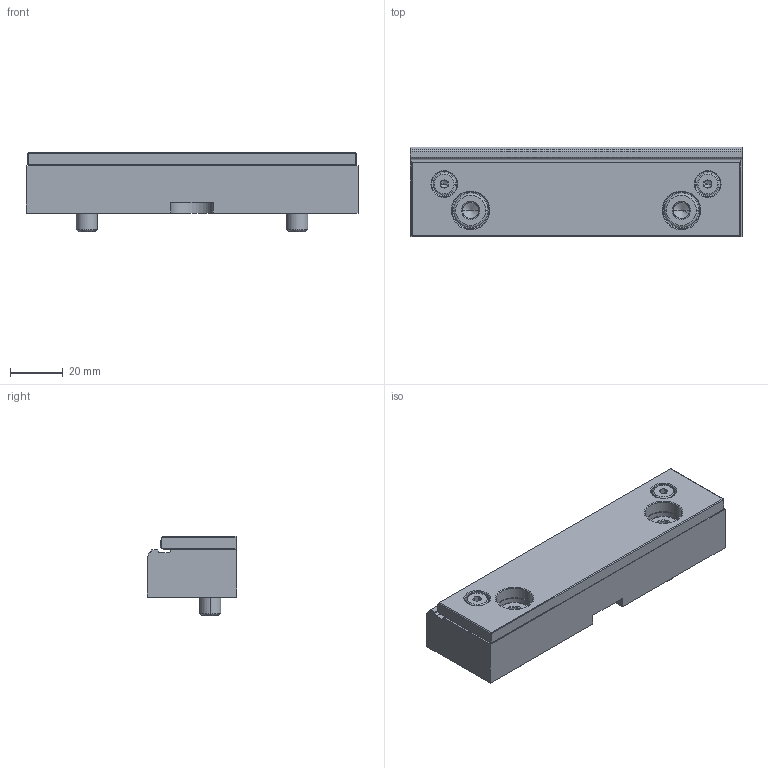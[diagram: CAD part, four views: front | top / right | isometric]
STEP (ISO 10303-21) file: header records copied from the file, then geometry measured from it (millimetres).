
FILE_DESCRIPTION (( 'STEP AP203' ), '1' );
FILE_NAME ('41111_3.STEP', '2012-10-05T06:40:47', ( '' ), ( '' ), 'SwSTEP 2.0', 'SolidWorks 2011', '' );
FILE_SCHEMA (( 'CONFIG_CONTROL_DESIGN' ));
Length unit declared in the file: millimetre
Products named in the file (1): 41111_3
Bounding box: 126 x 34 x 30 mm (x, y, z)
Volume: 90614.3 mm3; surface area: 27295.4 mm2
Topology: 6 solids, 6 shells, 219 faces, 501 edges, 296 vertices
Faces by surface type: plane 101, cone 54, cylinder 44, torus 20
Entity records: 6206 total; most frequent: CARTESIAN_POINT 1131, DIRECTION 1109, ORIENTED_EDGE 978, EDGE_CURVE 489, AXIS2_PLACEMENT_3D 414, VERTEX_POINT 296, LINE 281, VECTOR 281
